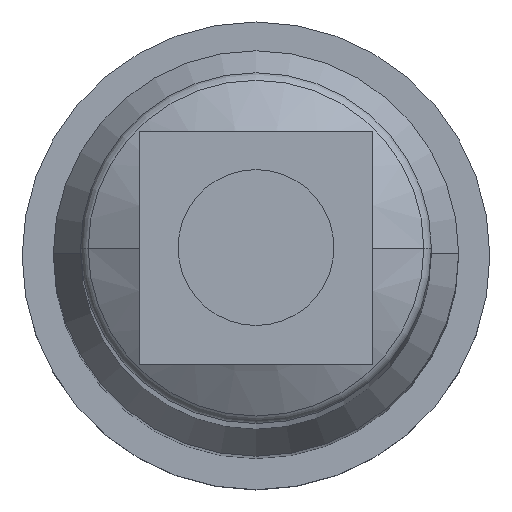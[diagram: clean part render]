
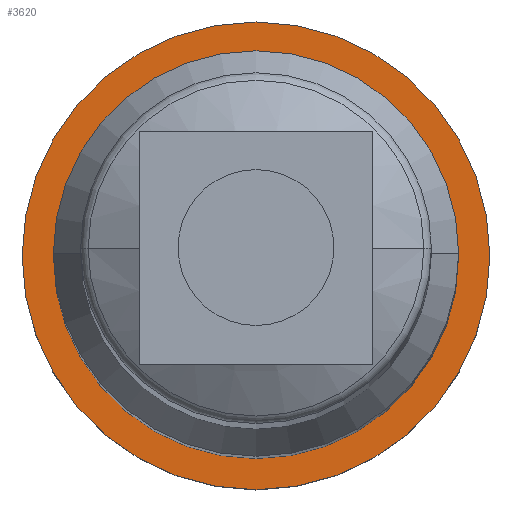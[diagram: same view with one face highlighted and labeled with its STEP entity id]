
A CAD part, top view. The second image highlights one B-rep face of the part: STEP entity #3620.
In plain terms, the highlighted planar face has unit normal (0, 0, 1).
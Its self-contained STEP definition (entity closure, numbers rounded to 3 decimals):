
#257 = CARTESIAN_POINT ( 'NONE',  ( -30., 0., 32. ) ) ;
#446 = CARTESIAN_POINT ( 'NONE',  ( 0., 0., 32. ) ) ;
#1094 = CARTESIAN_POINT ( 'NONE',  ( 0., 0., 32. ) ) ;
#1135 = DIRECTION ( 'NONE',  ( 1., 0., 0. ) ) ;
#2241 = CIRCLE ( 'NONE', #2926, 26. ) ;
#2439 = AXIS2_PLACEMENT_3D ( 'NONE', #8314, #9243, #4729 ) ;
#2926 = AXIS2_PLACEMENT_3D ( 'NONE', #7603, #10248, #9245 ) ;
#3063 = CIRCLE ( 'NONE', #9532, 30. ) ;
#3620 = ADVANCED_FACE ( 'NONE', ( #4776, #6201 ), #11428, .T. ) ;
#4005 = CARTESIAN_POINT ( 'NONE',  ( 26., 0., 32. ) ) ;
#4083 = VERTEX_POINT ( 'NONE', #9627 ) ;
#4120 = CARTESIAN_POINT ( 'NONE',  ( 0., 0., 32. ) ) ;
#4261 = EDGE_CURVE ( 'NONE', #9582, #6880, #3063, .T. ) ;
#4414 = EDGE_CURVE ( 'NONE', #4083, #7298, #2241, .T. ) ;
#4653 = ORIENTED_EDGE ( 'NONE', *, *, #4414, .T. ) ;
#4729 = DIRECTION ( 'NONE',  ( 1., 0., 0. ) ) ;
#4776 = FACE_BOUND ( 'NONE', #5161, .T. ) ;
#5161 = EDGE_LOOP ( 'NONE', ( #4653, #11449 ) ) ;
#5389 = CIRCLE ( 'NONE', #2439, 26. ) ;
#5692 = EDGE_LOOP ( 'NONE', ( #5848, #8633 ) ) ;
#5706 = DIRECTION ( 'NONE',  ( 0., 0., 1. ) ) ;
#5848 = ORIENTED_EDGE ( 'NONE', *, *, #7858, .T. ) ;
#6201 = FACE_OUTER_BOUND ( 'NONE', #5692, .T. ) ;
#6860 = EDGE_CURVE ( 'NONE', #7298, #4083, #5389, .T. ) ;
#6880 = VERTEX_POINT ( 'NONE', #257 ) ;
#7108 = DIRECTION ( 'NONE',  ( 1., 0., 0. ) ) ;
#7286 = DIRECTION ( 'NONE',  ( 0., 0., 1. ) ) ;
#7298 = VERTEX_POINT ( 'NONE', #4005 ) ;
#7415 = DIRECTION ( 'NONE',  ( 1., 0., 0. ) ) ;
#7603 = CARTESIAN_POINT ( 'NONE',  ( 0., 0., 32. ) ) ;
#7816 = AXIS2_PLACEMENT_3D ( 'NONE', #4120, #8631, #7108 ) ;
#7858 = EDGE_CURVE ( 'NONE', #6880, #9582, #11092, .T. ) ;
#8314 = CARTESIAN_POINT ( 'NONE',  ( 0., 0., 32. ) ) ;
#8631 = DIRECTION ( 'NONE',  ( 0., 0., 1. ) ) ;
#8633 = ORIENTED_EDGE ( 'NONE', *, *, #4261, .T. ) ;
#9243 = DIRECTION ( 'NONE',  ( 0., 0., -1. ) ) ;
#9245 = DIRECTION ( 'NONE',  ( 1., 0., 0. ) ) ;
#9504 = CARTESIAN_POINT ( 'NONE',  ( 30., 0., 32. ) ) ;
#9532 = AXIS2_PLACEMENT_3D ( 'NONE', #1094, #7286, #1135 ) ;
#9582 = VERTEX_POINT ( 'NONE', #9504 ) ;
#9627 = CARTESIAN_POINT ( 'NONE',  ( -26., 0., 32. ) ) ;
#10248 = DIRECTION ( 'NONE',  ( 0., 0., -1. ) ) ;
#11092 = CIRCLE ( 'NONE', #11397, 30. ) ;
#11397 = AXIS2_PLACEMENT_3D ( 'NONE', #446, #5706, #7415 ) ;
#11428 = PLANE ( 'NONE',  #7816 ) ;
#11449 = ORIENTED_EDGE ( 'NONE', *, *, #6860, .T. ) ;
